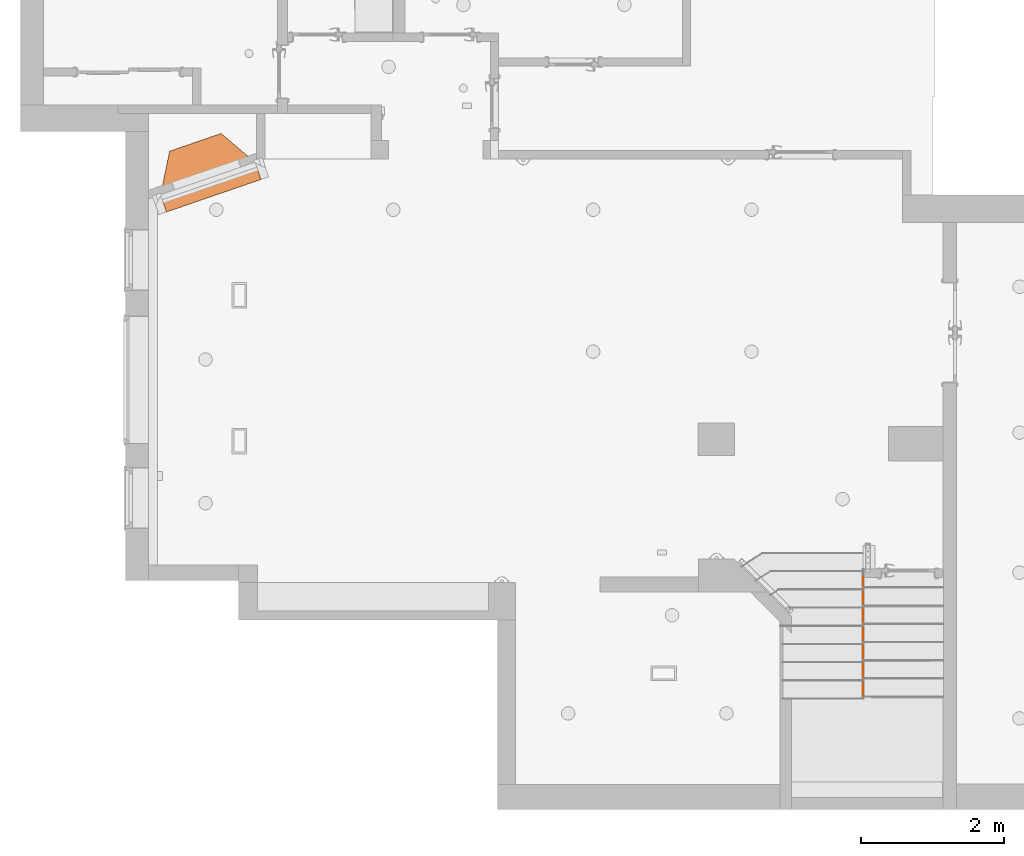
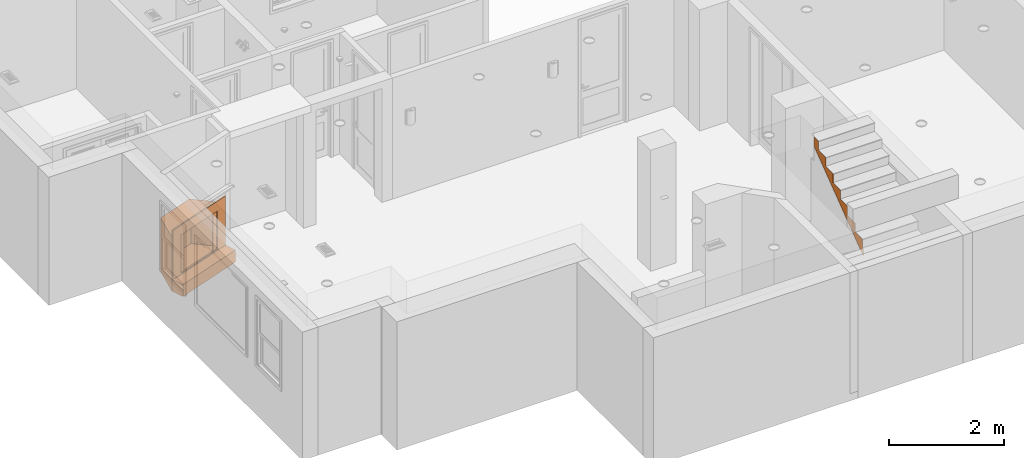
# One storey, part 21 of 24: 2 proxies.
"""IFC2X3 building model written with IfcOpenShell, lengths in inches."""

from ifc_helpers import new_model, entity, si_unit, converted_unit, derived_unit, money_unit, direction, frame, origin_with_axes, place, context, subcontext, project, spatial, faceted_brep, material, type_object, element, save


model = new_model("IFC2X3")

# Units and contexts
model_context = context("Model", 3, precision=0.000393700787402, world=origin_with_axes(), true_north=direction((0.0, 1.0)))
body_context = subcontext(model_context, "Body", "Model", "MODEL_VIEW")
ifc_project = project(units=[converted_unit("LENGTHUNIT", "INCH", entity("IfcPositiveLengthMeasure", 0.0254), si_unit("LENGTHUNIT", "METRE"), dimensions=[1, 0, 0, 0, 0, 0, 0]), converted_unit("AREAUNIT", "SQUARE_FOOT", entity("IfcPositiveLengthMeasure", 0.09290304), si_unit("AREAUNIT", "SQUARE_METRE"), dimensions=[2, 0, 0, 0, 0, 0, 0]), si_unit("PLANEANGLEUNIT", "RADIAN"), si_unit("SOLIDANGLEUNIT", "STERADIAN"), money_unit("USD"), converted_unit("TIMEUNIT", "Year", entity("IfcTimeMeasure", 31556926.0), si_unit("TIMEUNIT", "SECOND"), dimensions=[0, 0, 1, 0, 0, 0, 0]), si_unit("MASSUNIT", "GRAM", prefix="KILO"), si_unit("THERMODYNAMICTEMPERATUREUNIT", "DEGREE_CELSIUS"), si_unit("LUMINOUSINTENSITYUNIT", "LUMEN"), si_unit("ENERGYUNIT", "JOULE", prefix="MEGA"), derived_unit("THERMALCONDUCTANCEUNIT", [(si_unit("POWERUNIT", "WATT"), 1), (si_unit("LENGTHUNIT", "METRE"), -1), (si_unit("THERMODYNAMICTEMPERATUREUNIT", "KELVIN"), -1)]), derived_unit("SPECIFICHEATCAPACITYUNIT", [(si_unit("ENERGYUNIT", "JOULE"), 1), (si_unit("MASSUNIT", "GRAM", prefix="KILO"), -1), (si_unit("THERMODYNAMICTEMPERATUREUNIT", "KELVIN"), -1)]), derived_unit("MASSDENSITYUNIT", [(si_unit("MASSUNIT", "GRAM", prefix="KILO"), 1), (si_unit("VOLUMEUNIT", "CUBIC_METRE"), -1)])], contexts=[model_context])

# Site, building, storey
site_placement = place(None, origin_with_axes())
site = spatial("IfcSite", under=ifc_project, at=site_placement, Name="Site", CompositionType="ELEMENT")
building_placement = place(site_placement, origin_with_axes())
building = spatial("IfcBuilding", under=site, at=building_placement, Name="Building", CompositionType="ELEMENT")
storey_placement = place(building_placement, origin_with_axes())
storey = spatial("IfcBuildingStorey", under=building, at=storey_placement, Name="First Floor", CompositionType="ELEMENT", Elevation=0.0)

# Proxies
ifc_material = material(Name="Generic - Structural")
building_element_proxy_type_1 = type_object("IfcBuildingElementProxyType", Name="Generic - Structural", PredefinedType="NOTDEFINED")
proxy_1_placement = place(storey_placement, frame((683.426310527, 73.7894818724, 61.971279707), z_axis=(0.0, 0.0, 1.0), x_axis=(1.0, 0.0, 0.0)))
element("IfcBuildingElementProxy", 1, at=proxy_1_placement, inside=storey, type_object=building_element_proxy_type_1, material=ifc_material, Name="MO-22", context=body_context, shape_type="Brep", body=[
    faceted_brep([(-0.12594851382, 0.0, 5.76067990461), (-0.12594851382, 1.12488933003, 5.76067990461), (-0.12594851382, 1.12488945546, 13.3420087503), (-0.12594851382, 11.1248854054, 13.3420087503), (-0.12594851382, 11.1248849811, 20.9233375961), (-0.12594851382, 21.1248805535, 20.9233375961), (-0.12594851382, 21.1248805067, 28.5046664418), (-0.12594851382, 31.1248763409, 28.5046664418), (-0.12594851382, 31.1248760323, 36.0859952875), (-0.12594851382, 41.1248716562, 36.0859952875), (-0.12594851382, 41.1248715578, 43.6673241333), (-0.12594851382, 51.1248670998, 43.6673241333), (-0.12594851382, 51.1248670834, 51.248652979), (-0.12594851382, 61.1248623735, 51.248652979), (-0.12594851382, 61.124862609, 58.8299818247), (-0.12594851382, 67.1181422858, 58.8299817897), (-0.12594851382, 67.1181416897, 50.7697859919), (-0.12594851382, 8.29419824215, 6.25890799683), (-0.12594851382, 0.0, 0.0), (0.0, 0.0, 5.76067990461), (0.0, 1.12488933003, 5.76067990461), (0.0, 1.12488945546, 13.3420087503), (0.0, 11.1248854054, 13.3420087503), (0.0, 11.1248849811, 20.9233375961), (0.0, 21.1248805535, 20.9233375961), (0.0, 21.1248805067, 28.5046664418), (0.0, 31.1248763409, 28.5046664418), (0.0, 31.1248760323, 36.0859952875), (0.0, 41.1248716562, 36.0859952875), (0.0, 41.1248715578, 43.6673241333), (0.0, 51.1248670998, 43.6673241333), (0.0, 51.1248670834, 51.248652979), (0.0, 61.1248623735, 51.248652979), (0.0, 61.124862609, 58.8299818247), (0.0, 67.1181422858, 58.8299817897), (0.0, 67.1181416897, 50.7697859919), (0.0, 8.29419824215, 6.25890799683), (0.0, 0.0, 0.0)], [[[0, 1, 2, 3, 4, 5, 6, 7, 8, 9, 10, 11, 12, 13, 14, 15, 16, 17, 18]], [[1, 0, 19, 20]], [[2, 1, 20, 21]], [[3, 2, 21, 22]], [[4, 3, 22, 23]], [[5, 4, 23, 24]], [[6, 5, 24, 25]], [[7, 6, 25, 26]], [[8, 7, 26, 27]], [[9, 8, 27, 28]], [[10, 9, 28, 29]], [[11, 10, 29, 30]], [[12, 11, 30, 31]], [[13, 12, 31, 32]], [[14, 13, 32, 33]], [[15, 14, 33, 34]], [[16, 15, 34, 35]], [[17, 16, 35, 36]], [[18, 17, 36, 37]], [[0, 18, 37, 19]], [[19, 37, 36, 35, 34, 33, 32, 31, 30, 29, 28, 27, 26, 25, 24, 23, 22, 21, 20]]]),
])
building_element_proxy_type_2 = type_object("IfcBuildingElementProxyType", Name="Fireplace-Traditional 25", PredefinedType="NOTDEFINED")
proxy_2_placement = place(storey_placement, frame((297.522113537, 349.717181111, 0.0), z_axis=(0.0, 0.0, 1.0), x_axis=(0.945686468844, 0.325080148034, 0.0)))
element("IfcBuildingElementProxy", 2, at=proxy_2_placement, inside=storey, type_object=building_element_proxy_type_2, Name="FU - 003", context=body_context, shape_type="Brep", body=[
    faceted_brep([(0.0, 0.0, 0.0), (54.9212598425, 0.0, 0.0), (54.9212598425, 0.0, 11.0), (0.0, 0.0, 11.0), (0.0, 1.0, 0.0), (54.9212598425, 1.0, 0.0), (54.9212598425, 1.0, 11.0), (0.0, 1.0, 11.0)], [[[0, 1, 2, 3]], [[0, 4, 5, 1]], [[1, 5, 6, 2]], [[3, 2, 6, 7]], [[4, 0, 3, 7]], [[5, 4, 7, 6]]]),
    faceted_brep([(0.0, 0.0, 43.0), (54.9212598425, 0.0, 43.0), (54.9212598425, 0.0, 51.0), (0.0, 0.0, 51.0), (0.0, 1.0, 43.0), (54.9212598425, 1.0, 43.0), (54.9212598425, 1.0, 51.0), (0.0, 1.0, 51.0)], [[[0, 1, 2, 3]], [[0, 4, 5, 1]], [[1, 5, 6, 2]], [[3, 2, 6, 7]], [[4, 0, 3, 7]], [[5, 4, 7, 6]]]),
    faceted_brep([(8.46062992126, 0.0, 11.0), (0.0, 0.0, 11.0), (0.0, 1.0, 11.0), (8.46062992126, 1.0, 11.0), (8.46062992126, 0.0, 43.0), (0.0, 0.0, 43.0), (0.0, 1.0, 43.0), (8.46062992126, 1.0, 43.0)], [[[0, 1, 2, 3]], [[1, 0, 4, 5]], [[2, 1, 5, 6]], [[3, 2, 6, 7]], [[0, 3, 7, 4]], [[5, 4, 7, 6]]]),
    faceted_brep([(54.9212598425, 0.0, 11.0), (46.4606299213, 0.0, 11.0), (46.4606299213, 1.0, 11.0), (54.9212598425, 1.0, 11.0), (54.9212598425, 0.0, 43.0), (46.4606299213, 0.0, 43.0), (46.4606299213, 1.0, 43.0), (54.9212598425, 1.0, 43.0)], [[[0, 1, 2, 3]], [[1, 0, 4, 5]], [[2, 1, 5, 6]], [[3, 2, 6, 7]], [[0, 3, 7, 4]], [[5, 4, 7, 6]]]),
    faceted_brep([(13.0691627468, 21.0472440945, 0.0), (41.8520970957, 21.0472440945, 0.0), (41.8520970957, 21.0472440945, 45.0), (13.0691627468, 21.0472440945, 45.0), (1.16306472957, 1.0, 0.0), (0.0, 1.0, 0.0), (12.5, 22.0472440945, 0.0), (42.4212598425, 22.0472440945, 0.0), (54.9212598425, 1.0, 0.0), (53.758195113, 1.0, 0.0), (53.758195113, 1.0, 45.0), (54.9212598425, 1.0, 45.0), (42.4212598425, 22.0472440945, 45.0), (12.5, 22.0472440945, 45.0), (0.0, 1.0, 45.0), (1.16306472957, 1.0, 45.0)], [[[0, 1, 2, 3]], [[0, 4, 5, 6, 7, 8, 9, 1]], [[1, 9, 10, 2]], [[3, 2, 10, 11, 12, 13, 14, 15]], [[4, 0, 3, 15]], [[5, 4, 15, 14]], [[6, 5, 14, 13]], [[7, 6, 13, 12]], [[8, 7, 12, 11]], [[9, 8, 11, 10]]]),
    faceted_brep([(1.16306472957, 1.0, 0.0), (53.758195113, 1.0, 0.0), (53.758195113, 1.0, 10.0), (1.16306472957, 1.0, 10.0), (13.0691627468, 21.0472440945, 0.0), (41.8520970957, 21.0472440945, 0.0), (41.8520970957, 21.0472440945, 10.0), (13.0691627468, 21.0472440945, 10.0)], [[[0, 1, 2, 3]], [[0, 4, 5, 1]], [[1, 5, 6, 2]], [[3, 2, 6, 7]], [[4, 0, 3, 7]], [[5, 4, 7, 6]]]),
    faceted_brep([(1.16306472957, 1.0, 44.0), (53.758195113, 1.0, 44.0), (53.758195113, 1.0, 45.0), (1.16306472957, 1.0, 45.0), (13.0691627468, 21.0472440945, 44.0), (41.8520970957, 21.0472440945, 44.0), (41.8520970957, 21.0472440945, 45.0), (13.0691627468, 21.0472440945, 45.0)], [[[0, 1, 2, 3]], [[0, 4, 5, 1]], [[1, 5, 6, 2]], [[3, 2, 6, 7]], [[4, 0, 3, 7]], [[5, 4, 7, 6]]]),
    faceted_brep([(1.16306472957, 1.0, 10.0), (3.45256222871, 1.0, 10.0), (3.45256222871, 1.0, 44.0), (1.16306472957, 1.0, 44.0), (13.0691627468, 21.0472440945, 10.0), (41.8520970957, 21.0472440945, 10.0), (53.758195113, 1.0, 10.0), (51.4686976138, 1.0, 10.0), (40.7316979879, 19.0787401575, 10.0), (14.1895618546, 19.0787401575, 10.0), (14.1895618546, 19.0787401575, 44.0), (40.7316979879, 19.0787401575, 44.0), (51.4686976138, 1.0, 44.0), (53.758195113, 1.0, 44.0), (41.8520970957, 21.0472440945, 44.0), (13.0691627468, 21.0472440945, 44.0)], [[[0, 1, 2, 3]], [[0, 4, 5, 6, 7, 8, 9, 1]], [[1, 9, 10, 2]], [[3, 2, 10, 11, 12, 13, 14, 15]], [[4, 0, 3, 15]], [[5, 4, 15, 14]], [[6, 5, 14, 13]], [[7, 6, 13, 12]], [[8, 7, 12, 11]], [[9, 8, 11, 10]]]),
    faceted_brep([(0.0, 0.0, 0.0), (0.0, -9.0, 0.0), (0.0, -9.0, 10.0), (0.0, 0.0, 10.0), (54.9212598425, 0.0, 0.0), (54.9212598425, -9.0, 0.0), (54.9212598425, -9.0, 10.0), (54.9212598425, 0.0, 10.0)], [[[0, 1, 2, 3]], [[0, 4, 5, 1]], [[1, 5, 6, 2]], [[3, 2, 6, 7]], [[4, 0, 3, 7]], [[5, 4, 7, 6]]]),
    faceted_brep([(12.4606299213, 0.75, 11.0), (8.46062992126, 0.75, 11.0), (8.46062992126, 1.0, 11.0), (12.4606299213, 1.0, 11.0), (12.4606299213, 0.75, 43.0), (8.46062992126, 0.75, 43.0), (8.46062992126, 1.0, 43.0), (12.4606299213, 1.0, 43.0)], [[[0, 1, 2, 3]], [[1, 0, 4, 5]], [[2, 1, 5, 6]], [[3, 2, 6, 7]], [[0, 3, 7, 4]], [[5, 4, 7, 6]]]),
    faceted_brep([(46.4606299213, 0.75, 11.0), (42.4606299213, 0.75, 11.0), (42.4606299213, 1.0, 11.0), (46.4606299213, 1.0, 11.0), (46.4606299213, 0.75, 43.0), (42.4606299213, 0.75, 43.0), (42.4606299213, 1.0, 43.0), (46.4606299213, 1.0, 43.0)], [[[0, 1, 2, 3]], [[1, 0, 4, 5]], [[2, 1, 5, 6]], [[3, 2, 6, 7]], [[0, 3, 7, 4]], [[5, 4, 7, 6]]]),
])

save(model, "model.ifc")
